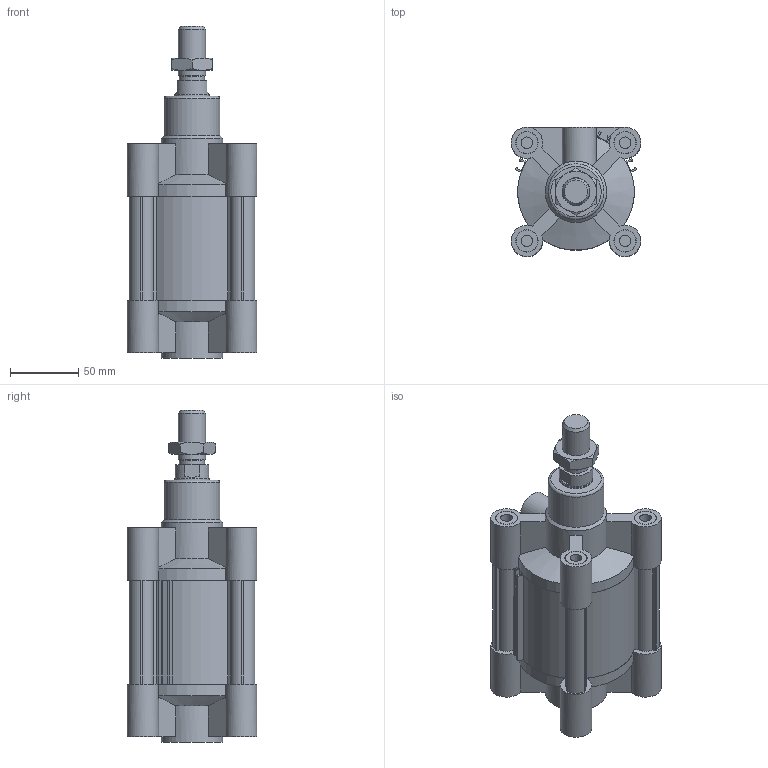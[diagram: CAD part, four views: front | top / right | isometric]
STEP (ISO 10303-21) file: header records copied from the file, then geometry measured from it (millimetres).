
FILE_DESCRIPTION((''),'2;1');
FILE_NAME('I:\Area Tecnica\Disegni\VARIE-3D\Componenti\ECOLIGHT\139#.##_0000_01\stp\139#_80_0025_01.iam.stp','2012-01-28T08:02:40',(''),(''),'Autodesk Inventor 2012','Autodesk Inventor 2012','');
FILE_SCHEMA(('AUTOMOTIVE_DESIGN { 1 0 10303 214 1 1 1 1 }'));
Length unit declared in the file: millimetre
Products named in the file (6): 139#_80_0025_01; CPL080_004-25; CPL080-001-01; CPL080-002-01; CPL_80_0025; 1320_80_18F
Assembly tree (5 placements, depth 2):
  139#_80_0025_01
    CPL080_004-25
    CPL080-001-01
    CPL080-002-01
    CPL_80_0025
    1320_80_18F
Bounding box: 95 x 95 x 243.5 mm (x, y, z)
Volume: 863542 mm3; surface area: 189759.6 mm2
Topology: 5 solids, 5 shells, 264 faces, 648 edges, 426 vertices
Faces by surface type: plane 154, cylinder 83, cone 26, torus 1
Full cylindrical faces by diameter (mm): 8.5 x8, 12 x2, 15.2 x2, 16 x8, 16.5 x8, 18 x1, 18.5 x1, 20 x1, 24.5 x1, 25 x2, 41 x1, 45 x2, 80 x4
Entity records: 7874 total; most frequent: CARTESIAN_POINT 1483, DIRECTION 1288, ORIENTED_EDGE 1186, EDGE_CURVE 593, AXIS2_PLACEMENT_3D 476, VERTEX_POINT 419, EDGE_LOOP 358, VECTOR 336
